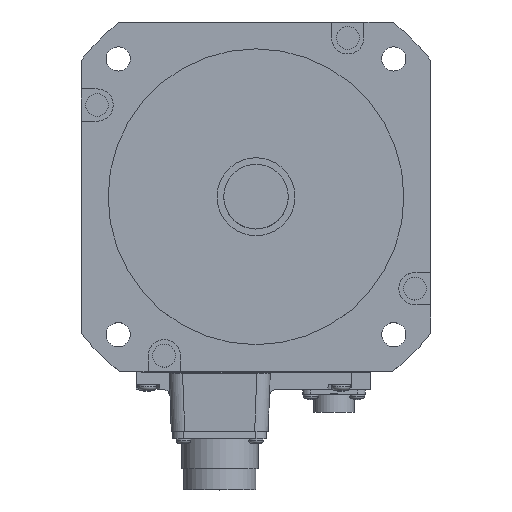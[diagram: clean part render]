
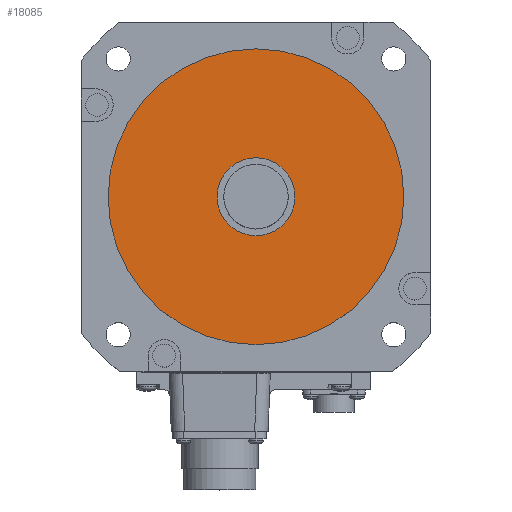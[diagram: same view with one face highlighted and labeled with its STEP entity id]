
A CAD part, top view. The second image highlights one B-rep face of the part: STEP entity #18085.
In plain terms, the highlighted planar face has unit normal (0, 0, 1).
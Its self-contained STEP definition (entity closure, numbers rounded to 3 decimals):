
#6546=CARTESIAN_POINT('',(0.,0.,3.));
#6547=DIRECTION('',(0.,0.,-1.));
#6548=DIRECTION('',(1.,0.,0.));
#6549=AXIS2_PLACEMENT_3D('',#6546,#6547,#6548);
#6551=CARTESIAN_POINT('',(0.,0.,3.));
#6552=DIRECTION('',(0.,0.,-1.));
#6553=DIRECTION('',(-1.,0.,0.));
#6554=AXIS2_PLACEMENT_3D('',#6551,#6552,#6553);
#6556=CARTESIAN_POINT('',(0.,0.,3.));
#6557=DIRECTION('',(0.,0.,1.));
#6558=DIRECTION('',(1.,0.,0.));
#6559=AXIS2_PLACEMENT_3D('',#6556,#6557,#6558);
#6561=CARTESIAN_POINT('',(0.,0.,3.));
#6562=DIRECTION('',(0.,0.,1.));
#6563=DIRECTION('',(-1.,0.,0.));
#6564=AXIS2_PLACEMENT_3D('',#6561,#6562,#6563);
#7337=CARTESIAN_POINT('',(55.,0.,3.));
#7338=VERTEX_POINT('',#7337);
#7339=CARTESIAN_POINT('',(-55.,0.,3.));
#7340=VERTEX_POINT('',#7339);
#8546=CARTESIAN_POINT('',(14.5,0.,3.));
#8547=CARTESIAN_POINT('',(-14.5,0.,3.));
#8548=VERTEX_POINT('',#8546);
#8549=VERTEX_POINT('',#8547);
#18069=CARTESIAN_POINT('',(0.,0.,3.));
#18070=DIRECTION('',(0.,0.,1.));
#18071=DIRECTION('',(1.,0.,0.));
#18072=AXIS2_PLACEMENT_3D('',#18069,#18070,#18071);
#18073=PLANE('',#18072);
#18074=ORIENTED_EDGE('',*,*,#18059,.T.);
#18076=ORIENTED_EDGE('',*,*,#18075,.T.);
#18077=EDGE_LOOP('',(#18074,#18076));
#18078=FACE_OUTER_BOUND('',#18077,.F.);
#18080=ORIENTED_EDGE('',*,*,#18079,.T.);
#18082=ORIENTED_EDGE('',*,*,#18081,.T.);
#18083=EDGE_LOOP('',(#18080,#18082));
#18084=FACE_BOUND('',#18083,.F.);
#18085=ADVANCED_FACE('',(#18078,#18084),#18073,.T.);
#6550=CIRCLE('',#6549,55.);
#6555=CIRCLE('',#6554,55.);
#6560=CIRCLE('',#6559,14.5);
#6565=CIRCLE('',#6564,14.5);
#18059=EDGE_CURVE('',#7338,#7340,#6550,.T.);
#18075=EDGE_CURVE('',#7340,#7338,#6555,.T.);
#18079=EDGE_CURVE('',#8548,#8549,#6560,.T.);
#18081=EDGE_CURVE('',#8549,#8548,#6565,.T.);
